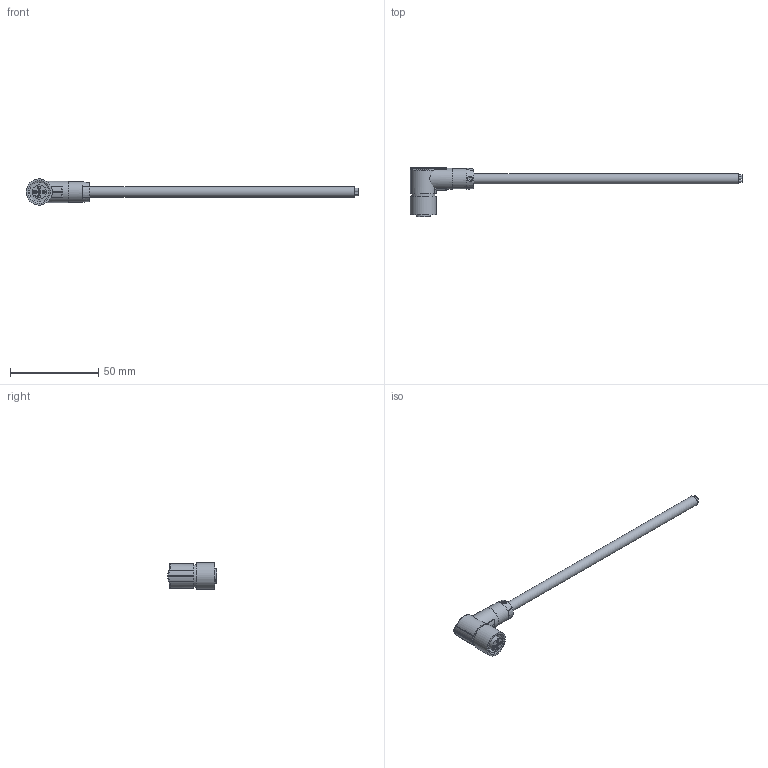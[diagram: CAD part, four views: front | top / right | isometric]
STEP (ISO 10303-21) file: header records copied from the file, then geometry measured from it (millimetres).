
FILE_DESCRIPTION( ( 'Unknown' ), '1' );
FILE_NAME( 'U:/PCR/Kabel Phoenix/WI1000_M12F5VxxN.stp', 'Unknown', ( 'Unknown' ), ( 'Unknown' ), 'PSStep 11.0', 'Unknown', ' ' );
FILE_SCHEMA( ( 'AUTOMOTIVE_DESIGN { 1 0 10303 214 1 1 1 1 }' ) );
Length unit declared in the file: millimetre
Products named in the file (1): 1697535
Bounding box: 188.25 x 28 x 14.74 mm (x, y, z)
Volume: 10414.7 mm3; surface area: 5924.1 mm2
Topology: 1 solids, 1 shells, 94 faces, 221 edges, 146 vertices
Faces by surface type: plane 37, cylinder 35, bspline 11, cone 11
Full cylindrical faces by diameter (mm): 1.2 x5, 1.27 x5, 5.9 x1, 11 x1, 11.6 x1, 12 x1, 12.671 x1, 13 x1, 14.8 x1
Entity records: 5944 total; most frequent: CARTESIAN_POINT 3215, ORIENTED_EDGE 382, DIRECTION 376, EDGE_CURVE 191, AXIS2_PLACEMENT_3D 157, VERTEX_POINT 140, EDGE_LOOP 135, FACE_OUTER_BOUND 111
